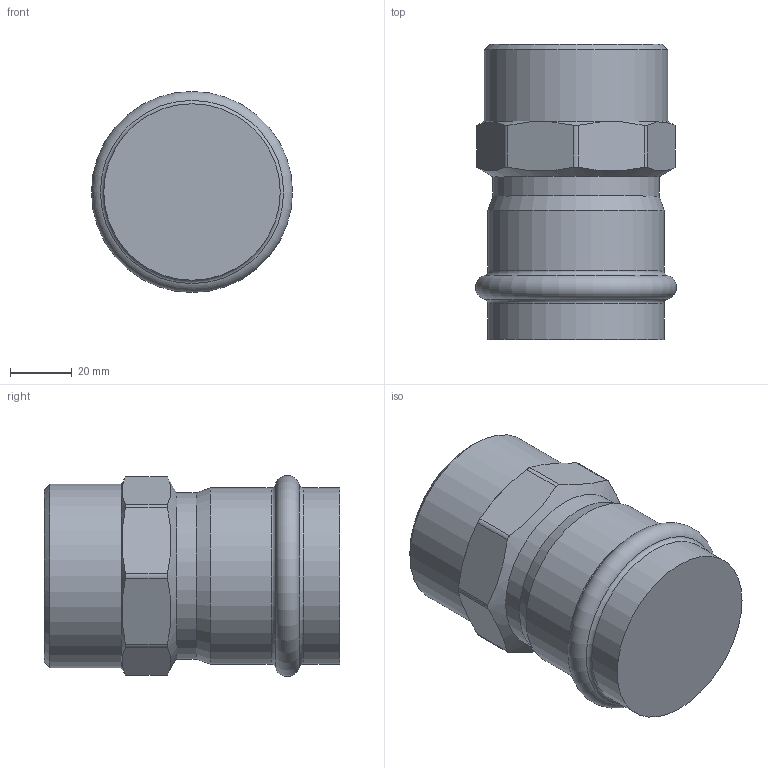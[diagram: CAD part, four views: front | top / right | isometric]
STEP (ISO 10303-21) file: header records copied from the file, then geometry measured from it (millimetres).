
FILE_DESCRIPTION(('STEP AP203'), '1');
FILE_NAME('VTi.901.I.005409', '', ('UNSPECIFIED'), ('UNSPECIFIED'), 'C3D Converter', 'C3D Toolkit', '');
FILE_SCHEMA(('CONFIG_CONTROL_DESIGN'));
Length unit declared in the file: millimetre
Bounding box: 65.39 x 96 x 65.39 mm (x, y, z)
Volume: 261734.4 mm3; surface area: 24268.9 mm2
Topology: 1 solids, 1 shells, 29 faces, 73 edges, 46 vertices
Faces by surface type: cylinder 12, plane 10, cone 4, torus 3
Full cylindrical faces by diameter (mm): 54 x1, 57.4 x2, 59.614 x1
Entity records: 2041 total; most frequent: CARTESIAN_POINT 1407, ORIENTED_EDGE 124, DIRECTION 100, EDGE_CURVE 62, VERTEX_POINT 46, AXIS2_PLACEMENT_3D 42, EDGE_LOOP 40, B_SPLINE_CURVE_WITH_KNOTS 34
